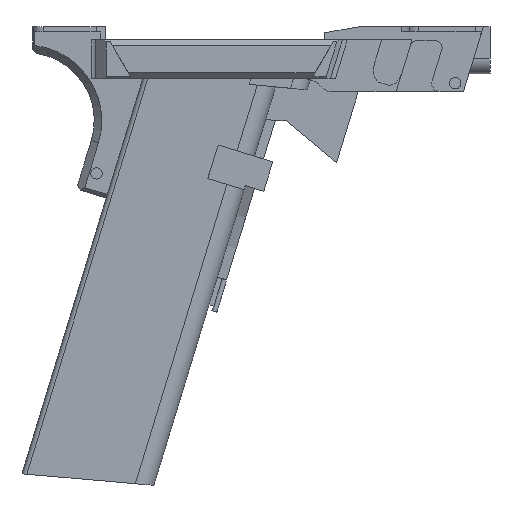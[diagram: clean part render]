
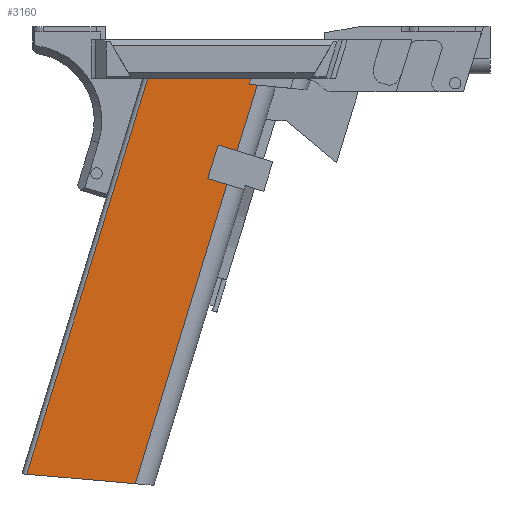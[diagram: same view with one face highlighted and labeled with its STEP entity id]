
A CAD part, front view. The second image highlights one B-rep face of the part: STEP entity #3160.
In plain terms, the highlighted planar face has unit normal (0, -1, 0).
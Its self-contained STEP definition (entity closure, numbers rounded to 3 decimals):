
#251=FACE_OUTER_BOUND('',#418,.T.);
#418=EDGE_LOOP('',(#2272,#2273,#2274,#2275,#2276,#2277,#2278,#2279,#2280,
#2281));
#676=LINE('',#4884,#1043);
#677=LINE('',#4886,#1044);
#678=LINE('',#4888,#1045);
#679=LINE('',#4890,#1046);
#680=LINE('',#4892,#1047);
#681=LINE('',#4894,#1048);
#682=LINE('',#4896,#1049);
#683=LINE('',#4898,#1050);
#684=LINE('',#4900,#1051);
#685=LINE('',#4901,#1052);
#1043=VECTOR('',#3835,51.64);
#1044=VECTOR('',#3836,5.283);
#1045=VECTOR('',#3837,8.163);
#1046=VECTOR('',#3838,5.283);
#1047=VECTOR('',#3839,18.184);
#1048=VECTOR('',#3840,2.117);
#1049=VECTOR('',#3841,12.204);
#1050=VECTOR('',#3842,10.);
#1051=VECTOR('',#3843,78.038);
#1052=VECTOR('',#3844,10.);
#1422=VERTEX_POINT('',#4882);
#1423=VERTEX_POINT('',#4883);
#1424=VERTEX_POINT('',#4885);
#1425=VERTEX_POINT('',#4887);
#1426=VERTEX_POINT('',#4889);
#1427=VERTEX_POINT('',#4891);
#1428=VERTEX_POINT('',#4893);
#1429=VERTEX_POINT('',#4895);
#1430=VERTEX_POINT('',#4897);
#1431=VERTEX_POINT('',#4899);
#1762=EDGE_CURVE('',#1422,#1423,#676,.T.);
#1763=EDGE_CURVE('',#1423,#1424,#677,.T.);
#1764=EDGE_CURVE('',#1424,#1425,#678,.T.);
#1765=EDGE_CURVE('',#1425,#1426,#679,.T.);
#1766=EDGE_CURVE('',#1426,#1427,#680,.T.);
#1767=EDGE_CURVE('',#1428,#1427,#681,.T.);
#1768=EDGE_CURVE('',#1429,#1428,#682,.T.);
#1769=EDGE_CURVE('',#1430,#1429,#683,.T.);
#1770=EDGE_CURVE('',#1431,#1430,#684,.T.);
#1771=EDGE_CURVE('',#1422,#1431,#685,.T.);
#2272=ORIENTED_EDGE('',*,*,#1762,.T.);
#2273=ORIENTED_EDGE('',*,*,#1763,.T.);
#2274=ORIENTED_EDGE('',*,*,#1764,.T.);
#2275=ORIENTED_EDGE('',*,*,#1765,.T.);
#2276=ORIENTED_EDGE('',*,*,#1766,.T.);
#2277=ORIENTED_EDGE('',*,*,#1767,.F.);
#2278=ORIENTED_EDGE('',*,*,#1768,.F.);
#2279=ORIENTED_EDGE('',*,*,#1769,.F.);
#2280=ORIENTED_EDGE('',*,*,#1770,.F.);
#2281=ORIENTED_EDGE('',*,*,#1771,.F.);
#3027=PLANE('',#3372);
#3160=ADVANCED_FACE('',(#251),#3027,.T.);
#3372=AXIS2_PLACEMENT_3D('',#4881,#3833,#3834);
#3833=DIRECTION('center_axis',(0.,-1.,0.));
#3834=DIRECTION('ref_axis',(0.,0.,-1.));
#3835=DIRECTION('',(0.292,0.,0.956));
#3836=DIRECTION('',(-0.956,0.,0.292));
#3837=DIRECTION('',(0.292,0.,0.956));
#3838=DIRECTION('',(0.956,0.,-0.292));
#3839=DIRECTION('',(0.292,0.,0.956));
#3840=DIRECTION('',(0.995,0.,-0.095));
#3841=DIRECTION('',(-0.292,0.,-0.956));
#3842=DIRECTION('',(1.,0.,0.));
#3843=DIRECTION('',(0.292,0.,0.956));
#3844=DIRECTION('',(-0.996,0.,0.087));
#4881=CARTESIAN_POINT('Origin',(1.558,-11.811,-110.894));
#4882=CARTESIAN_POINT('',(26.882,-11.811,-124.513));
#4883=CARTESIAN_POINT('',(51.41,-11.811,-44.284));
#4884=CARTESIAN_POINT('',(36.312,-11.811,-93.668));
#4885=CARTESIAN_POINT('',(46.358,-11.811,-42.74));
#4886=CARTESIAN_POINT('',(51.41,-11.811,-44.284));
#4887=CARTESIAN_POINT('',(48.745,-11.811,-34.933));
#4888=CARTESIAN_POINT('',(46.358,-11.811,-42.74));
#4889=CARTESIAN_POINT('',(53.797,-11.811,-36.478));
#4890=CARTESIAN_POINT('',(48.745,-11.811,-34.933));
#4891=CARTESIAN_POINT('',(59.114,-11.811,-19.088));
#4892=CARTESIAN_POINT('',(53.797,-11.811,-36.478));
#4893=CARTESIAN_POINT('',(57.007,-11.811,-18.887));
#4894=CARTESIAN_POINT('',(57.007,-11.811,-18.887));
#4895=CARTESIAN_POINT('',(57.467,-11.811,-17.382));
#4896=CARTESIAN_POINT('',(60.575,-11.811,-7.216));
#4897=CARTESIAN_POINT('',(30.148,-11.811,-17.382));
#4898=CARTESIAN_POINT('',(0.779,-11.811,-17.382));
#4899=CARTESIAN_POINT('',(-1.837,-11.811,-122.));
#4900=CARTESIAN_POINT('',(7.646,-11.811,-90.983));
#4901=CARTESIAN_POINT('',(16.681,-11.811,-123.621));
